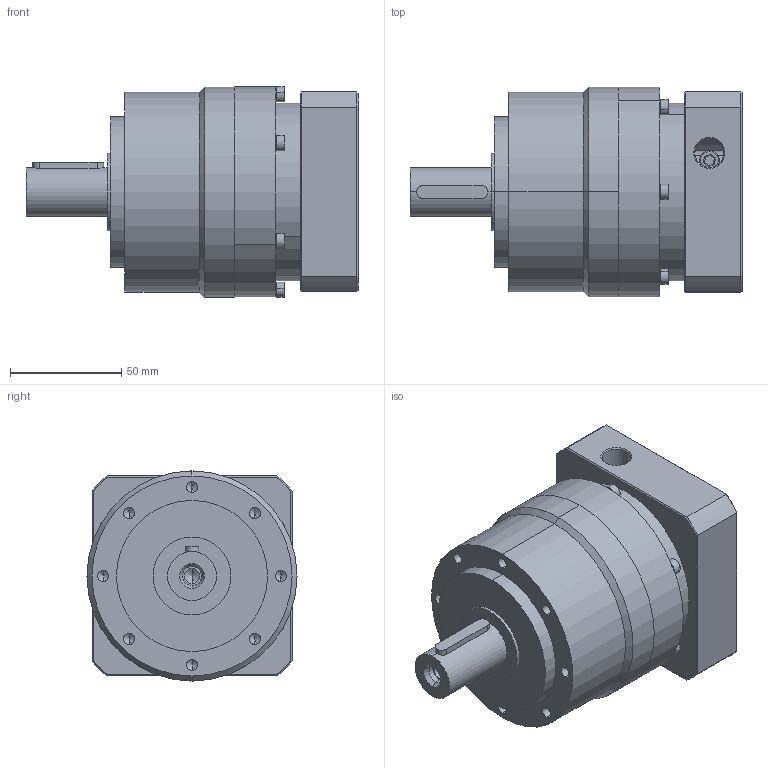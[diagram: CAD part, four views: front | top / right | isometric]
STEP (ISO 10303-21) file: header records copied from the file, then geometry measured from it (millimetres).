
FILE_DESCRIPTION (( 'STEP AP203' ), '1' );
FILE_NAME ('6C3XS.070090.031.STEP', '2019-06-13T08:20:36', ( '' ), ( '' ), 'SwSTEP 2.0', 'SolidWorks 2010', '' );
FILE_SCHEMA (( 'CONFIG_CONTROL_DESIGN' ));
Length unit declared in the file: millimetre
Products named in the file (8): 2341F33210_9成品; PGCH90-B(模型)_PEH90-03B; 6C3XS.070090.031; PGCH90-BP(模型)_3.成品; M4-0.7-25內六角螺絲; M5-0.8-15內六角螺絲; M5-0.8-20內六角螺絲; 雙圓鍵6x6x32_Default
Assembly tree (15 placements, depth 2):
  6C3XS.070090.031
    M5-0.8-20內六角螺絲  x4
    PGCH90-BP(模型)_3.成品
    M5-0.8-15內六角螺絲
    M4-0.7-25內六角螺絲  x6
    PGCH90-B(模型)_PEH90-03B
    雙圓鍵6x6x32_Default
    2341F33210_9成品
Bounding box: 149.4 x 94.5 x 94.8 mm (x, y, z)
Volume: 689320.2 mm3; surface area: 99947.5 mm2
Topology: 15 solids, 15 shells, 487 faces, 1106 edges, 657 vertices
Faces by surface type: plane 184, cylinder 168, cone 135
Entity records: 10009 total; most frequent: CARTESIAN_POINT 1791, DIRECTION 1622, ORIENTED_EDGE 1376, EDGE_CURVE 688, AXIS2_PLACEMENT_3D 643, VERTEX_POINT 431, EDGE_LOOP 375, VECTOR 336
